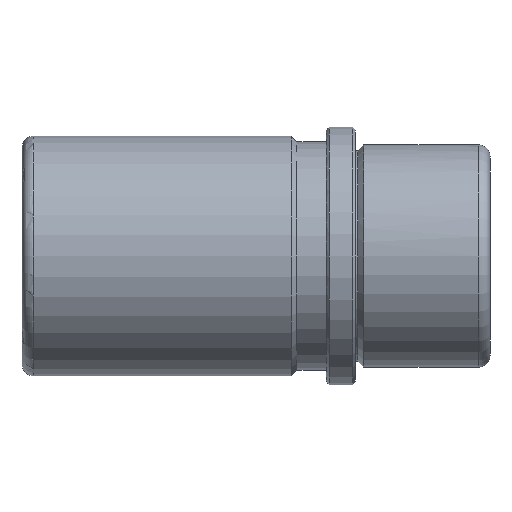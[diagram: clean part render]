
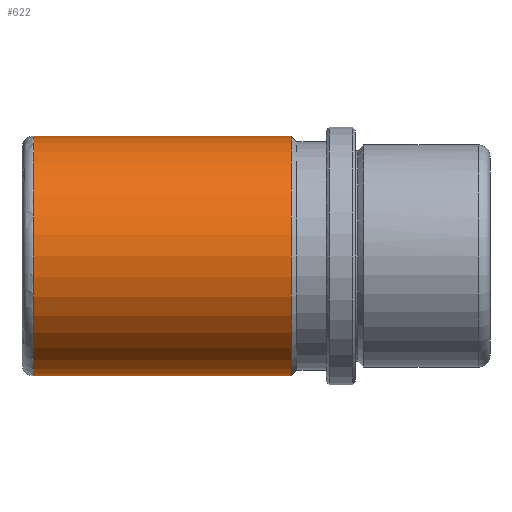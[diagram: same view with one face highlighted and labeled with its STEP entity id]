
A CAD part, front view. The second image highlights one B-rep face of the part: STEP entity #622.
In plain terms, the highlighted cylindrical face has radius 20.5 mm (diameter 41 mm), a partial arc.
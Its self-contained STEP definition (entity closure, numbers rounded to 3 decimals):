
#407=CARTESIAN_POINT('Line Origine',(23.,0.,20.5)) ;
#411=CARTESIAN_POINT('Vertex',(-11.,0.,20.5)) ;
#413=CARTESIAN_POINT('Vertex',(-55.,0.,20.5)) ;
#427=CARTESIAN_POINT('Vertex',(-11.,0.,-20.5)) ;
#430=CARTESIAN_POINT('Line Origine',(23.,0.,-20.5)) ;
#434=CARTESIAN_POINT('Vertex',(-55.,0.,-20.5)) ;
#585=CARTESIAN_POINT('Axis2P3D Location',(23.,0.,0.)) ;
#590=CARTESIAN_POINT('Axis2P3D Location',(-11.,0.,0.)) ;
#594=CARTESIAN_POINT('Vertex',(-11.,-20.5,0.)) ;
#597=CARTESIAN_POINT('Axis2P3D Location',(-11.,0.,0.)) ;
#602=CARTESIAN_POINT('Axis2P3D Location',(-55.,0.,0.)) ;
#606=CARTESIAN_POINT('Vertex',(-55.,-20.5,0.)) ;
#609=CARTESIAN_POINT('Axis2P3D Location',(-55.,0.,0.)) ;
#408=DIRECTION('Vector Direction',(-1.,0.,0.)) ;
#431=DIRECTION('Vector Direction',(-1.,0.,0.)) ;
#586=DIRECTION('Axis2P3D Direction',(-1.,-0.,-0.)) ;
#587=DIRECTION('Axis2P3D XDirection',(0.,0.,-1.)) ;
#591=DIRECTION('Axis2P3D Direction',(-1.,-0.,-0.)) ;
#598=DIRECTION('Axis2P3D Direction',(-1.,-0.,-0.)) ;
#603=DIRECTION('Axis2P3D Direction',(-1.,-0.,-0.)) ;
#610=DIRECTION('Axis2P3D Direction',(-1.,-0.,-0.)) ;
#588=AXIS2_PLACEMENT_3D('Cylinder Axis2P3D',#585,#586,#587) ;
#592=AXIS2_PLACEMENT_3D('Circle Axis2P3D',#590,#591,$) ;
#599=AXIS2_PLACEMENT_3D('Circle Axis2P3D',#597,#598,$) ;
#604=AXIS2_PLACEMENT_3D('Circle Axis2P3D',#602,#603,$) ;
#611=AXIS2_PLACEMENT_3D('Circle Axis2P3D',#609,#610,$) ;
#615=ORIENTED_EDGE('',*,*,#436,.T.) ;
#616=ORIENTED_EDGE('',*,*,#596,.F.) ;
#617=ORIENTED_EDGE('',*,*,#601,.F.) ;
#618=ORIENTED_EDGE('',*,*,#415,.T.) ;
#619=ORIENTED_EDGE('',*,*,#608,.T.) ;
#620=ORIENTED_EDGE('',*,*,#613,.T.) ;
#409=VECTOR('Line Direction',#408,1.) ;
#432=VECTOR('Line Direction',#431,1.) ;
#622=ADVANCED_FACE('CF 655 24 x 80',(#621),#589,.T.) ;
#593=CIRCLE('generated circle',#592,20.5) ;
#600=CIRCLE('generated circle',#599,20.5) ;
#605=CIRCLE('generated circle',#604,20.5) ;
#612=CIRCLE('generated circle',#611,20.5) ;
#589=CYLINDRICAL_SURFACE('generated cylinder',#588,20.5) ;
#415=EDGE_CURVE('',#412,#414,#410,.T.) ;
#436=EDGE_CURVE('',#435,#428,#433,.F.) ;
#596=EDGE_CURVE('',#595,#428,#593,.F.) ;
#601=EDGE_CURVE('',#412,#595,#600,.F.) ;
#608=EDGE_CURVE('',#414,#607,#605,.F.) ;
#613=EDGE_CURVE('',#607,#435,#612,.F.) ;
#614=EDGE_LOOP('',(#615,#616,#617,#618,#619,#620)) ;
#621=FACE_OUTER_BOUND('',#614,.T.) ;
#410=LINE('Line',#407,#409) ;
#433=LINE('Line',#430,#432) ;
#412=VERTEX_POINT('',#411) ;
#414=VERTEX_POINT('',#413) ;
#428=VERTEX_POINT('',#427) ;
#435=VERTEX_POINT('',#434) ;
#595=VERTEX_POINT('',#594) ;
#607=VERTEX_POINT('',#606) ;
